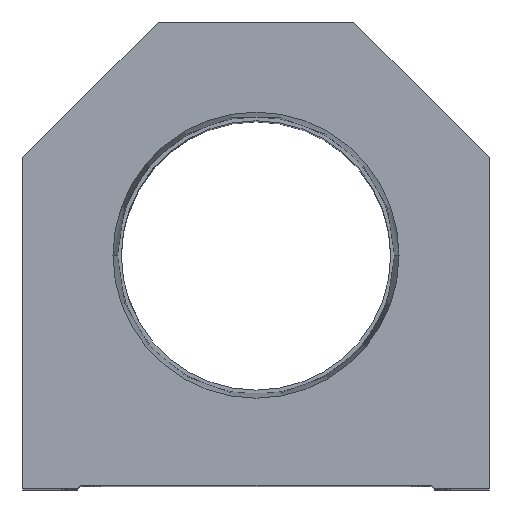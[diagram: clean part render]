
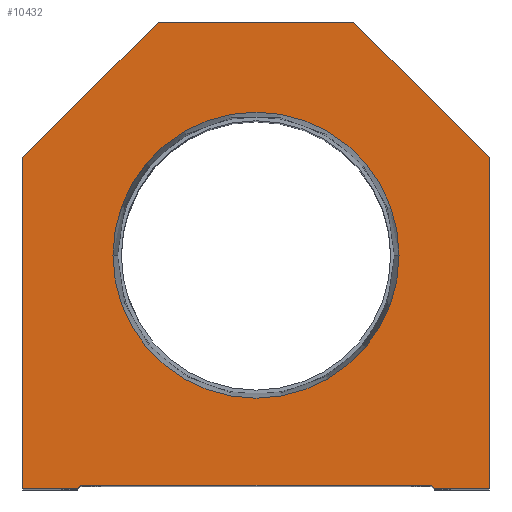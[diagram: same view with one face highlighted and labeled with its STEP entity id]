
A CAD part, top view. The second image highlights one B-rep face of the part: STEP entity #10432.
In plain terms, the highlighted planar face has unit normal (0, 0, 1).
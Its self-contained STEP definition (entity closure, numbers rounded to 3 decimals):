
#69 = DIRECTION ( 'NONE',  ( 0., 0., 1. ) ) ;
#144 = DIRECTION ( 'NONE',  ( 1., 0., 0. ) ) ;
#154 = ORIENTED_EDGE ( 'NONE', *, *, #9726, .T. ) ;
#416 = CARTESIAN_POINT ( 'NONE',  ( -14.55, 14.55, 0. ) ) ;
#420 = VECTOR ( 'NONE', #6012, 1000. ) ;
#466 = CARTESIAN_POINT ( 'NONE',  ( 38.1, 54.1, 0. ) ) ;
#889 = CARTESIAN_POINT ( 'NONE',  ( -23.374, 38.1, 0. ) ) ;
#950 = VERTEX_POINT ( 'NONE', #11322 ) ;
#1239 = AXIS2_PLACEMENT_3D ( 'NONE', #11518, #69, #2681 ) ;
#1320 = CARTESIAN_POINT ( 'NONE',  ( -38.1, 54.1, 0. ) ) ;
#1431 = VERTEX_POINT ( 'NONE', #2397 ) ;
#1658 = DIRECTION ( 'NONE',  ( 0., 0., 1. ) ) ;
#1728 = VERTEX_POINT ( 'NONE', #5039 ) ;
#1801 = DIRECTION ( 'NONE',  ( 0.707, 0.707, 0. ) ) ;
#1898 = ORIENTED_EDGE ( 'NONE', *, *, #7310, .T. ) ;
#2031 = CIRCLE ( 'NONE', #7652, 23.374 ) ;
#2160 = CARTESIAN_POINT ( 'NONE',  ( -28.6, 0.5, 0. ) ) ;
#2397 = CARTESIAN_POINT ( 'NONE',  ( 38.1, 0., 0. ) ) ;
#2400 = CARTESIAN_POINT ( 'NONE',  ( 38.1, 0., 0. ) ) ;
#2555 = ORIENTED_EDGE ( 'NONE', *, *, #6057, .T. ) ;
#2640 = AXIS2_PLACEMENT_3D ( 'NONE', #13720, #10815, #7267 ) ;
#2681 = DIRECTION ( 'NONE',  ( 1., 0., 0. ) ) ;
#2758 = LINE ( 'NONE', #2841, #9976 ) ;
#2841 = CARTESIAN_POINT ( 'NONE',  ( -28.6, 0.5, 0. ) ) ;
#2856 = EDGE_CURVE ( 'NONE', #4431, #12952, #3756, .T. ) ;
#3173 = CARTESIAN_POINT ( 'NONE',  ( -38.1, 54.1, 0. ) ) ;
#3663 = DIRECTION ( 'NONE',  ( -1., 0., 0. ) ) ;
#3674 = DIRECTION ( 'NONE',  ( 1., 0., 0. ) ) ;
#3756 = LINE ( 'NONE', #10437, #10944 ) ;
#3939 = ORIENTED_EDGE ( 'NONE', *, *, #10408, .T. ) ;
#4297 = CARTESIAN_POINT ( 'NONE',  ( 0., 38.1, 0. ) ) ;
#4299 = CARTESIAN_POINT ( 'NONE',  ( 14.55, 14.55, 0. ) ) ;
#4415 = VERTEX_POINT ( 'NONE', #889 ) ;
#4431 = VERTEX_POINT ( 'NONE', #4600 ) ;
#4600 = CARTESIAN_POINT ( 'NONE',  ( -38.1, 0., 0. ) ) ;
#4658 = CARTESIAN_POINT ( 'NONE',  ( 28.6, 0., 0. ) ) ;
#4911 = ORIENTED_EDGE ( 'NONE', *, *, #7088, .T. ) ;
#5004 = FACE_BOUND ( 'NONE', #6052, .T. ) ;
#5039 = CARTESIAN_POINT ( 'NONE',  ( 16., 76.2, 0. ) ) ;
#5461 = CARTESIAN_POINT ( 'NONE',  ( 23.374, 38.1, 0. ) ) ;
#5547 = LINE ( 'NONE', #4299, #12022 ) ;
#5603 = EDGE_LOOP ( 'NONE', ( #7171, #2555, #3939, #7981, #9340, #7047, #4911, #1898, #154, #7885 ) ) ;
#5735 = VERTEX_POINT ( 'NONE', #5461 ) ;
#5742 = VERTEX_POINT ( 'NONE', #10601 ) ;
#6012 = DIRECTION ( 'NONE',  ( 0., -1., 0. ) ) ;
#6052 = EDGE_LOOP ( 'NONE', ( #7839, #10608 ) ) ;
#6057 = EDGE_CURVE ( 'NONE', #12952, #16219, #15649, .T. ) ;
#6153 = LINE ( 'NONE', #15215, #6456 ) ;
#6271 = CARTESIAN_POINT ( 'NONE',  ( -29.1, 0., 0. ) ) ;
#6456 = VECTOR ( 'NONE', #3663, 1000. ) ;
#6464 = EDGE_CURVE ( 'NONE', #4415, #5735, #2031, .T. ) ;
#6529 = EDGE_CURVE ( 'NONE', #8794, #1431, #14641, .T. ) ;
#7047 = ORIENTED_EDGE ( 'NONE', *, *, #12662, .T. ) ;
#7088 = EDGE_CURVE ( 'NONE', #8052, #1728, #8071, .T. ) ;
#7171 = ORIENTED_EDGE ( 'NONE', *, *, #2856, .T. ) ;
#7176 = LINE ( 'NONE', #8258, #420 ) ;
#7267 = DIRECTION ( 'NONE',  ( 1., 0., 0. ) ) ;
#7310 = EDGE_CURVE ( 'NONE', #1728, #950, #6153, .T. ) ;
#7387 = DIRECTION ( 'NONE',  ( 0., 1., 0. ) ) ;
#7652 = AXIS2_PLACEMENT_3D ( 'NONE', #4297, #1658, #10676 ) ;
#7839 = ORIENTED_EDGE ( 'NONE', *, *, #12356, .F. ) ;
#7885 = ORIENTED_EDGE ( 'NONE', *, *, #8927, .T. ) ;
#7981 = ORIENTED_EDGE ( 'NONE', *, *, #9514, .T. ) ;
#8052 = VERTEX_POINT ( 'NONE', #8255 ) ;
#8071 = LINE ( 'NONE', #466, #12516 ) ;
#8227 = DIRECTION ( 'NONE',  ( 1., 0., 0. ) ) ;
#8255 = CARTESIAN_POINT ( 'NONE',  ( 38.1, 54.1, 0. ) ) ;
#8258 = CARTESIAN_POINT ( 'NONE',  ( -38.1, 0., 0. ) ) ;
#8437 = VECTOR ( 'NONE', #8227, 1000. ) ;
#8794 = VERTEX_POINT ( 'NONE', #14112 ) ;
#8927 = EDGE_CURVE ( 'NONE', #9267, #4431, #7176, .T. ) ;
#9028 = DIRECTION ( 'NONE',  ( -0.707, -0.707, 0. ) ) ;
#9151 = VECTOR ( 'NONE', #9028, 1000. ) ;
#9251 = VECTOR ( 'NONE', #7387, 1000. ) ;
#9267 = VERTEX_POINT ( 'NONE', #3173 ) ;
#9340 = ORIENTED_EDGE ( 'NONE', *, *, #6529, .T. ) ;
#9495 = CIRCLE ( 'NONE', #2640, 23.374 ) ;
#9514 = EDGE_CURVE ( 'NONE', #5742, #8794, #5547, .T. ) ;
#9726 = EDGE_CURVE ( 'NONE', #950, #9267, #10281, .T. ) ;
#9976 = VECTOR ( 'NONE', #144, 1000. ) ;
#10050 = FACE_OUTER_BOUND ( 'NONE', #5603, .T. ) ;
#10281 = LINE ( 'NONE', #1320, #9151 ) ;
#10408 = EDGE_CURVE ( 'NONE', #16219, #5742, #2758, .T. ) ;
#10432 = ADVANCED_FACE ( 'NONE', ( #5004, #10050 ), #12761, .T. ) ;
#10437 = CARTESIAN_POINT ( 'NONE',  ( -28.6, 0., 0. ) ) ;
#10601 = CARTESIAN_POINT ( 'NONE',  ( 28.6, 0.5, 0. ) ) ;
#10605 = DIRECTION ( 'NONE',  ( 0.707, -0.707, 0. ) ) ;
#10608 = ORIENTED_EDGE ( 'NONE', *, *, #6464, .F. ) ;
#10676 = DIRECTION ( 'NONE',  ( 1., 0., 0. ) ) ;
#10701 = DIRECTION ( 'NONE',  ( -0.707, 0.707, 0. ) ) ;
#10815 = DIRECTION ( 'NONE',  ( 0., 0., 1. ) ) ;
#10944 = VECTOR ( 'NONE', #3674, 1000. ) ;
#11322 = CARTESIAN_POINT ( 'NONE',  ( -16., 76.2, 0. ) ) ;
#11518 = CARTESIAN_POINT ( 'NONE',  ( 0., 0., 0. ) ) ;
#12022 = VECTOR ( 'NONE', #10605, 1000. ) ;
#12356 = EDGE_CURVE ( 'NONE', #5735, #4415, #9495, .T. ) ;
#12516 = VECTOR ( 'NONE', #10701, 1000. ) ;
#12662 = EDGE_CURVE ( 'NONE', #1431, #8052, #13744, .T. ) ;
#12761 = PLANE ( 'NONE',  #1239 ) ;
#12952 = VERTEX_POINT ( 'NONE', #6271 ) ;
#13145 = VECTOR ( 'NONE', #1801, 1000. ) ;
#13720 = CARTESIAN_POINT ( 'NONE',  ( 0., 38.1, 0. ) ) ;
#13744 = LINE ( 'NONE', #2400, #9251 ) ;
#14112 = CARTESIAN_POINT ( 'NONE',  ( 29.1, 0., 0. ) ) ;
#14641 = LINE ( 'NONE', #4658, #8437 ) ;
#15215 = CARTESIAN_POINT ( 'NONE',  ( 16., 76.2, 0. ) ) ;
#15649 = LINE ( 'NONE', #416, #13145 ) ;
#16219 = VERTEX_POINT ( 'NONE', #2160 ) ;
